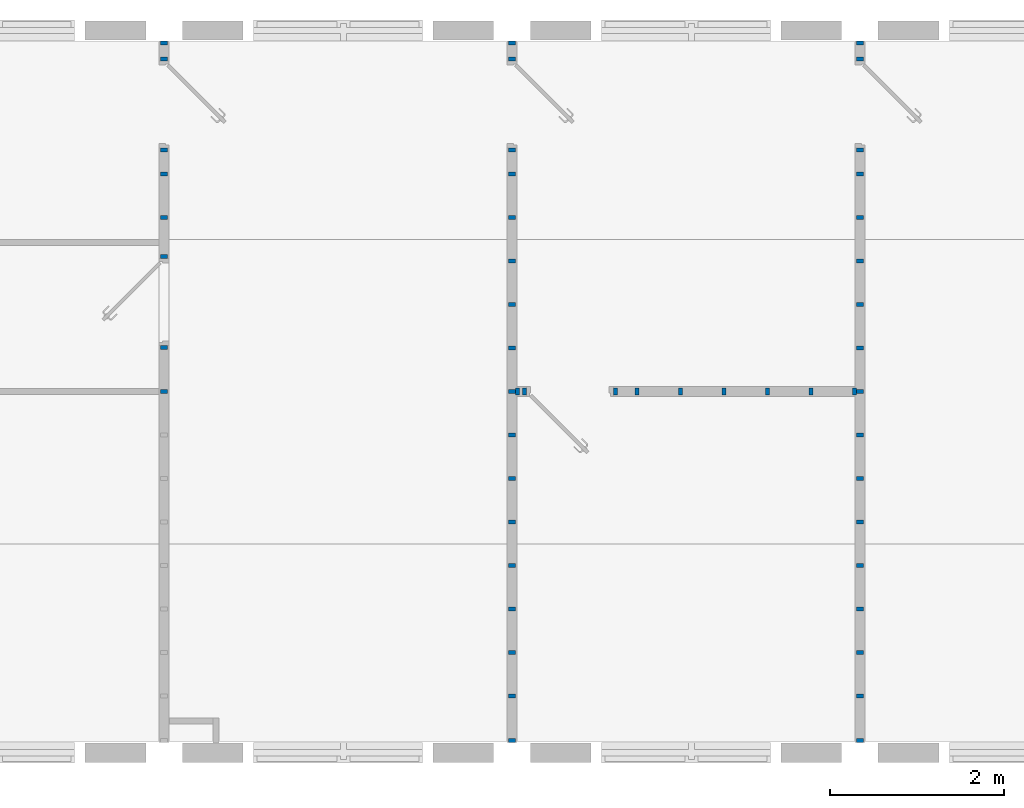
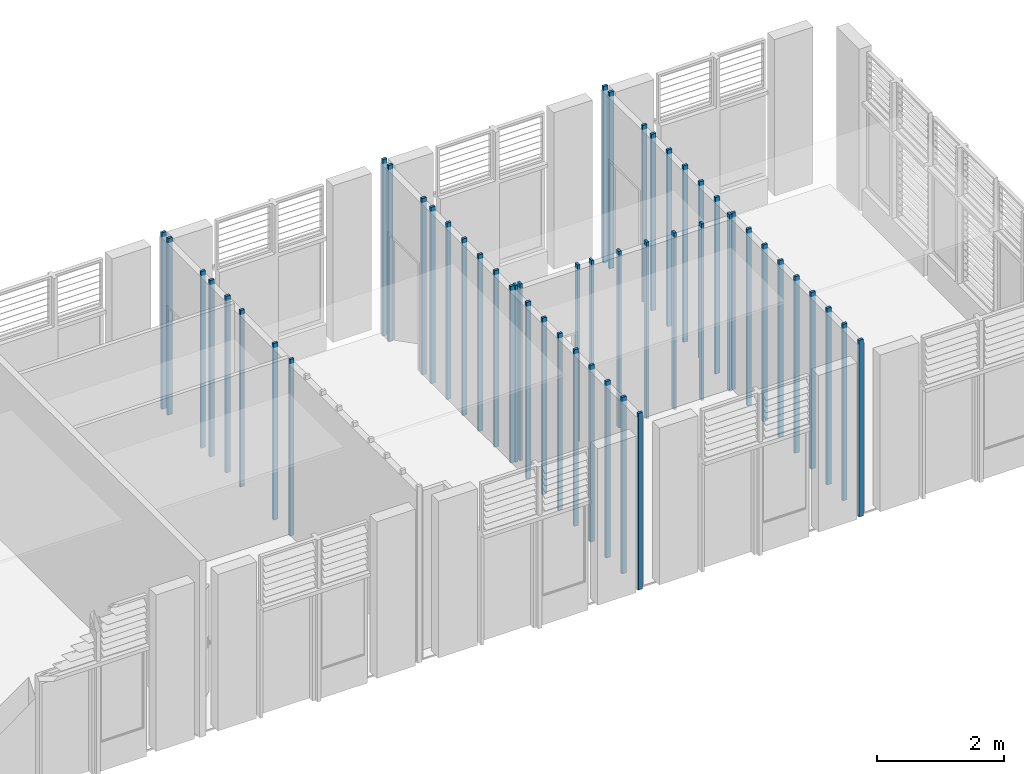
# One storey, part 3 of 20: 51 columns.
"""IFC2X3 building model written with IfcOpenShell, lengths in metres."""

from ifc_helpers import new_model, entity, si_unit, converted_unit, derived_unit, direction, frame, origin, origin_2d_with_axis, place, context, subcontext, project, spatial, rectangle, extrude, source, transform, mapped, material, type_object, type_shapes, element, save


model = new_model("IFC2X3")

# Units and contexts
model_context = context("Model", 3, precision=1e-05, world=origin(), true_north=direction((6.12303176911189e-17, 1.0)))
body_context = subcontext(model_context, "Body", "Model", "MODEL_VIEW")
ifc_project = project(units=[si_unit("LENGTHUNIT", "METRE"), si_unit("AREAUNIT", "SQUARE_METRE"), si_unit("VOLUMEUNIT", "CUBIC_METRE"), converted_unit("PLANEANGLEUNIT", "DEGREE", entity("IfcRatioMeasure", 0.0174532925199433), si_unit("PLANEANGLEUNIT", "RADIAN"), dimensions=[0, 0, 0, 0, 0, 0, 0]), si_unit("MASSUNIT", "GRAM", prefix="KILO"), derived_unit("MASSDENSITYUNIT", [(si_unit("MASSUNIT", "GRAM", prefix="KILO"), 1), (si_unit("LENGTHUNIT", "METRE"), -3)]), si_unit("TIMEUNIT", "SECOND"), si_unit("FREQUENCYUNIT", "HERTZ"), si_unit("THERMODYNAMICTEMPERATUREUNIT", "DEGREE_CELSIUS"), derived_unit("THERMALTRANSMITTANCEUNIT", [(si_unit("MASSUNIT", "GRAM", prefix="KILO"), 1), (si_unit("THERMODYNAMICTEMPERATUREUNIT", "KELVIN"), -1), (si_unit("TIMEUNIT", "SECOND"), -3)]), derived_unit("VOLUMETRICFLOWRATEUNIT", [(si_unit("LENGTHUNIT", "METRE"), 3), (si_unit("TIMEUNIT", "SECOND"), -1)]), si_unit("ELECTRICCURRENTUNIT", "AMPERE"), si_unit("ELECTRICVOLTAGEUNIT", "VOLT"), si_unit("POWERUNIT", "WATT"), si_unit("FORCEUNIT", "NEWTON", prefix="KILO"), si_unit("ILLUMINANCEUNIT", "LUX"), si_unit("LUMINOUSFLUXUNIT", "LUMEN"), si_unit("LUMINOUSINTENSITYUNIT", "CANDELA"), derived_unit("USERDEFINED", [(si_unit("MASSUNIT", "GRAM", prefix="KILO"), -1), (si_unit("LENGTHUNIT", "METRE"), -2), (si_unit("TIMEUNIT", "SECOND"), 3), (si_unit("LUMINOUSFLUXUNIT", "LUMEN"), 1)]), derived_unit("LINEARVELOCITYUNIT", [(si_unit("LENGTHUNIT", "METRE"), 1), (si_unit("TIMEUNIT", "SECOND"), -1)]), si_unit("PRESSUREUNIT", "PASCAL"), derived_unit("USERDEFINED", [(si_unit("LENGTHUNIT", "METRE"), -2), (si_unit("MASSUNIT", "GRAM", prefix="KILO"), 1), (si_unit("TIMEUNIT", "SECOND"), -2)])], contexts=[model_context])

# Site, building, storey
site_placement = place(None, origin())
site = spatial("IfcSite", under=ifc_project, at=site_placement, Name="Surface", CompositionType="ELEMENT")
building_placement = place(site_placement, origin())
building = spatial("IfcBuilding", under=site, at=building_placement, Name="ExPREF", CompositionType="ELEMENT")
storey_placement = place(building_placement, frame((0.0, 0.0, 4.27)))
storey = spatial("IfcBuildingStorey", under=building, at=storey_placement, Name="R+1", CompositionType="ELEMENT", Elevation=4.27)

# Columns
ifc_material = material(Name="AA-bois tasseau cloison")
column_type_1 = type_object("IfcColumnType", Name="HEA160", PredefinedType="COLUMN")
shared_shape_1 = source(origin(), body_context, "Body", "SweptSolid", [
    extrude(rectangle(XDim=0.08, YDim=0.0449999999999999, at=origin_2d_with_axis()), frame((0.0, 0.0, 4.215), z_axis=(0.0, 0.0, 1.0), x_axis=(0.0, -1.0, 0.0)), (0.0, 0.0, 1.0), 3.385),
])
type_shapes(column_type_1, [shared_shape_1])
for number, where, z_axis, x_axis, name in (
    (1, (57.4897436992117, -189.20806962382, -4.27), (0.0, 0.0, 1.0), (0.0, -1.0, 0.0), "poteau bois 8x4.5 cm:HEA160"),
    (2, (57.4897436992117, -188.700569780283, -4.27), (0.0, 0.0, 1.0), (0.0, -1.0, 0.0), "poteau bois 8x4.5 cm:HEA160"),
    (3, (57.4897436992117, -187.655569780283, -4.27), (0.0, 0.0, 1.0), (0.0, -1.0, 0.0), "poteau bois 8x4.5 cm:HEA160"),
    (4, (57.4897436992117, -187.20806962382, -4.27), (0.0, 0.0, 1.0), (0.0, -1.0, 0.0), "poteau bois 8x4.5 cm:HEA160"),
    (5, (57.4897436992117, -186.70806962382, -4.27), (0.0, 0.0, 1.0), (0.0, -1.0, 0.0), "poteau bois 8x4.5 cm:HEA160"),
    (6, (57.4897436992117, -185.19898794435, -4.27), (0.0, 0.0, 1.0), (0.0, -1.0, 0.0), "poteau bois 8x4.5 cm:HEA160"),
    (7, (57.4897436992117, -186.428987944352, -4.27), (0.0, 0.0, 1.0), (0.0, -1.0, 0.0), "poteau bois 8x4.5 cm:HEA160"),
    (8, (57.4897436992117, -185.383987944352, -4.27), (0.0, 0.0, 1.0), (0.0, -1.0, 0.0), "poteau bois 8x4.5 cm:HEA160"),
    (9, (61.4897436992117, -189.20806962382, -4.27), (0.0, 0.0, 1.0), (0.0, -1.0, 0.0), "poteau bois 8x4.5 cm:HEA160"),
    (10, (61.4897436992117, -188.70806962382, -4.27), (0.0, 0.0, 1.0), (0.0, -1.0, 0.0), "poteau bois 8x4.5 cm:HEA160"),
    (11, (61.4897436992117, -188.20806962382, -4.27), (0.0, 0.0, 1.0), (0.0, -1.0, 0.0), "poteau bois 8x4.5 cm:HEA160"),
    (12, (61.4897436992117, -187.70806962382, -4.27), (0.0, 0.0, 1.0), (0.0, -1.0, 0.0), "poteau bois 8x4.5 cm:HEA160"),
    (13, (61.4897436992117, -187.20806962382, -4.27), (0.0, 0.0, 1.0), (0.0, -1.0, 0.0), "poteau bois 8x4.5 cm:HEA160"),
    (14, (61.4897436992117, -186.70806962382, -4.27), (0.0, 0.0, 1.0), (0.0, -1.0, 0.0), "poteau bois 8x4.5 cm:HEA160"),
    (15, (61.4897436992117, -185.19898794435, -4.27), (0.0, 0.0, 1.0), (0.0, -1.0, 0.0), "poteau bois 8x4.5 cm:HEA160"),
    (16, (61.4897436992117, -186.428987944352, -4.27), (0.0, 0.0, 1.0), (0.0, -1.0, 0.0), "poteau bois 8x4.5 cm:HEA160"),
    (17, (61.4897436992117, -185.383987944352, -4.27), (0.0, 0.0, 1.0), (0.0, -1.0, 0.0), "poteau bois 8x4.5 cm:HEA160"),
    (18, (65.4897436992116, -189.20806962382, -4.27), (0.0, 0.0, 1.0), (0.0, -1.0, 0.0), "poteau bois 8x4.5 cm:HEA160"),
    (19, (65.4897436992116, -188.70806962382, -4.27), (0.0, 0.0, 1.0), (0.0, -1.0, 0.0), "poteau bois 8x4.5 cm:HEA160"),
    (20, (65.4897436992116, -188.20806962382, -4.27), (0.0, 0.0, 1.0), (0.0, -1.0, 0.0), "poteau bois 8x4.5 cm:HEA160"),
    (21, (65.4897436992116, -187.70806962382, -4.27), (0.0, 0.0, 1.0), (0.0, -1.0, 0.0), "poteau bois 8x4.5 cm:HEA160"),
    (22, (65.4897436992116, -187.20806962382, -4.27), (0.0, 0.0, 1.0), (0.0, -1.0, 0.0), "poteau bois 8x4.5 cm:HEA160"),
    (23, (65.4897436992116, -186.70806962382, -4.27), (0.0, 0.0, 1.0), (0.0, -1.0, 0.0), "poteau bois 8x4.5 cm:HEA160"),
    (24, (65.4897436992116, -185.19898794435, -4.27), (0.0, 0.0, 1.0), (0.0, -1.0, 0.0), "poteau bois 8x4.5 cm:HEA160"),
    (25, (65.4897436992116, -186.428987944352, -4.27), (0.0, 0.0, 1.0), (0.0, -1.0, 0.0), "poteau bois 8x4.5 cm:HEA160"),
    (26, (65.4897436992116, -185.383987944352, -4.27), (0.0, 0.0, 1.0), (0.0, -1.0, 0.0), "poteau bois 8x4.5 cm:HEA160"),
):
    element("IfcColumn", number, at=place(storey_placement, frame(where, z_axis=z_axis, x_axis=x_axis)), inside=storey, type_object=column_type_1, material=ifc_material, Name=name, ObjectType="HEA160", context=body_context, shape_type="MappedRepresentation", body=[
        mapped(shared_shape_1, transform((0.0, 0.0, 0.0), scale=1.0)),
    ])
column_type_2 = type_object("IfcColumnType", Name="HEA160", PredefinedType="COLUMN")
shared_shape_2 = source(origin(), body_context, "Body", "SweptSolid", [
    extrude(rectangle(XDim=0.08, YDim=0.0449999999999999, at=origin_2d_with_axis()), frame((0.0, 0.0, 4.215), z_axis=(0.0, 0.0, 1.0), x_axis=(0.0, -1.0, 0.0)), (0.0, 0.0, 1.0), 3.385),
])
type_shapes(column_type_2, [shared_shape_2])
for number, where, z_axis, x_axis, name in (
    (27, (61.4897436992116, -193.217151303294, -4.27), (0.0, 0.0, 1.0), (0.0, 1.0, 0.0), "poteau bois 8x4.5 cm:HEA160"),
    (28, (61.4897436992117, -189.708069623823, -4.27), (0.0, 0.0, 1.0), (0.0, 1.0, 0.0), "poteau bois 8x4.5 cm:HEA160"),
    (29, (61.4897436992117, -190.208069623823, -4.27), (0.0, 0.0, 1.0), (0.0, 1.0, 0.0), "poteau bois 8x4.5 cm:HEA160"),
    (30, (61.4897436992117, -190.708069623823, -4.27), (0.0, 0.0, 1.0), (0.0, 1.0, 0.0), "poteau bois 8x4.5 cm:HEA160"),
    (31, (61.4897436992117, -191.208069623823, -4.27), (0.0, 0.0, 1.0), (0.0, 1.0, 0.0), "poteau bois 8x4.5 cm:HEA160"),
    (32, (61.4897436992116, -191.708069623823, -4.27), (0.0, 0.0, 1.0), (0.0, 1.0, 0.0), "poteau bois 8x4.5 cm:HEA160"),
    (33, (61.4897436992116, -192.208069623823, -4.27), (0.0, 0.0, 1.0), (0.0, 1.0, 0.0), "poteau bois 8x4.5 cm:HEA160"),
    (34, (61.4897436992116, -192.708069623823, -4.27), (0.0, 0.0, 1.0), (0.0, 1.0, 0.0), "poteau bois 8x4.5 cm:HEA160"),
    (35, (65.4897436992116, -193.217151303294, -4.27), (0.0, 0.0, 1.0), (0.0, 1.0, 0.0), "poteau bois 8x4.5 cm:HEA160"),
    (36, (65.4897436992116, -189.708069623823, -4.27), (0.0, 0.0, 1.0), (0.0, 1.0, 0.0), "poteau bois 8x4.5 cm:HEA160"),
    (37, (65.4897436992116, -190.208069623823, -4.27), (0.0, 0.0, 1.0), (0.0, 1.0, 0.0), "poteau bois 8x4.5 cm:HEA160"),
    (38, (65.4897436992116, -190.708069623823, -4.27), (0.0, 0.0, 1.0), (0.0, 1.0, 0.0), "poteau bois 8x4.5 cm:HEA160"),
    (39, (65.4897436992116, -191.208069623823, -4.27), (0.0, 0.0, 1.0), (0.0, 1.0, 0.0), "poteau bois 8x4.5 cm:HEA160"),
    (40, (65.4897436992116, -191.708069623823, -4.27), (0.0, 0.0, 1.0), (0.0, 1.0, 0.0), "poteau bois 8x4.5 cm:HEA160"),
    (41, (65.4897436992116, -192.208069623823, -4.27), (0.0, 0.0, 1.0), (0.0, 1.0, 0.0), "poteau bois 8x4.5 cm:HEA160"),
    (42, (65.4897436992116, -192.708069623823, -4.27), (0.0, 0.0, 1.0), (0.0, 1.0, 0.0), "poteau bois 8x4.5 cm:HEA160"),
    (43, (61.5522436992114, -189.208069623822, -4.27), (0.0, 0.0, 1.0), (-1.0, 0.0, 0.0), "poteau bois 8x4.5 cm:HEA160"),
    (44, (61.6322436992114, -189.208069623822, -4.27), (0.0, 0.0, 1.0), (-1.0, 0.0, 0.0), "poteau bois 8x4.5 cm:HEA160"),
    (45, (62.9272436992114, -189.208069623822, -4.27), (0.0, 0.0, 1.0), (-1.0, 0.0, 0.0), "poteau bois 8x4.5 cm:HEA160"),
    (46, (63.4272436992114, -189.208069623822, -4.27), (0.0, 0.0, 1.0), (-1.0, 0.0, 0.0), "poteau bois 8x4.5 cm:HEA160"),
    (47, (63.9272436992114, -189.208069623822, -4.27), (0.0, 0.0, 1.0), (-1.0, 0.0, 0.0), "poteau bois 8x4.5 cm:HEA160"),
    (48, (64.4272436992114, -189.208069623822, -4.27), (0.0, 0.0, 1.0), (-1.0, 0.0, 0.0), "poteau bois 8x4.5 cm:HEA160"),
    (49, (64.9272436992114, -189.208069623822, -4.27), (0.0, 0.0, 1.0), (-1.0, 0.0, 0.0), "poteau bois 8x4.5 cm:HEA160"),
    (50, (65.4272436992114, -189.208069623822, -4.27), (0.0, 0.0, 1.0), (-1.0, 0.0, 0.0), "poteau bois 8x4.5 cm:HEA160"),
    (51, (62.6772436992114, -189.208069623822, -4.27), (0.0, 0.0, 1.0), (-1.0, 0.0, 0.0), "poteau bois 8x4.5 cm:HEA160"),
):
    element("IfcColumn", number, at=place(storey_placement, frame(where, z_axis=z_axis, x_axis=x_axis)), inside=storey, type_object=column_type_2, material=ifc_material, Name=name, ObjectType="HEA160", context=body_context, shape_type="MappedRepresentation", body=[
        mapped(shared_shape_2, transform((0.0, 0.0, 0.0), scale=1.0)),
    ])

save(model, "model.ifc")
